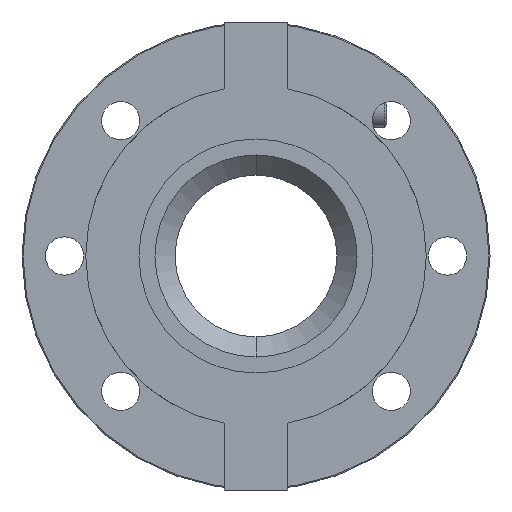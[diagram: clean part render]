
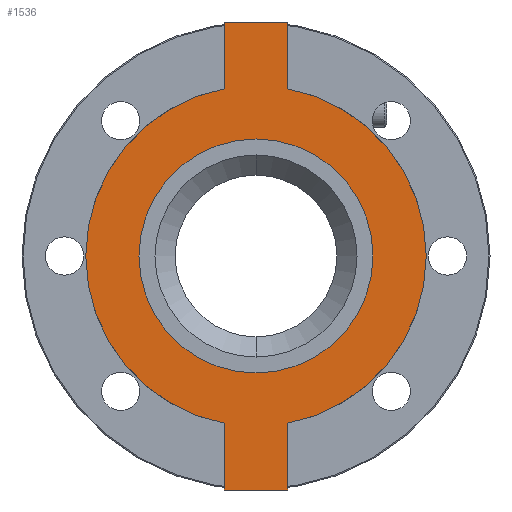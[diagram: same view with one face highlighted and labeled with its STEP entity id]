
A CAD part, front view. The second image highlights one B-rep face of the part: STEP entity #1536.
In plain terms, the highlighted planar face has unit normal (0, -1, 0).
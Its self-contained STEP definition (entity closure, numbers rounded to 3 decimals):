
#957 = VERTEX_POINT ( 'NONE', #8472 ) ;
#967 = VERTEX_POINT ( 'NONE', #8482 ) ;
#968 = VERTEX_POINT ( 'NONE', #8483 ) ;
#975 = VERTEX_POINT ( 'NONE', #8490 ) ;
#976 = VERTEX_POINT ( 'NONE', #8491 ) ;
#977 = VERTEX_POINT ( 'NONE', #8492 ) ;
#978 = VERTEX_POINT ( 'NONE', #8493 ) ;
#980 = VERTEX_POINT ( 'NONE', #8495 ) ;
#981 = VERTEX_POINT ( 'NONE', #8496 ) ;
#984 = VERTEX_POINT ( 'NONE', #8499 ) ;
#1536 = ADVANCED_FACE ( 'NONE', ( #16947, #16951 ), #17461, .F. ) ;
#2791 = EDGE_LOOP ( 'NONE', ( #4172, #4173, #4174, #4175, #4176, #4177, #4178, #4179 ) ) ;
#2813 = EDGE_LOOP ( 'NONE', ( #4180, #4181 ) ) ;
#3894 = EDGE_CURVE ( 'NONE', #967, #968, #18569, .T. ) ;
#3900 = EDGE_CURVE ( 'NONE', #957, #975, #18574, .T. ) ;
#3907 = EDGE_CURVE ( 'NONE', #977, #980, #18583, .T. ) ;
#3911 = EDGE_CURVE ( 'NONE', #981, #957, #18593, .T. ) ;
#3912 = EDGE_CURVE ( 'NONE', #978, #981, #18594, .T. ) ;
#3913 = EDGE_CURVE ( 'NONE', #980, #978, #18590, .T. ) ;
#3914 = EDGE_CURVE ( 'NONE', #976, #977, #18598, .T. ) ;
#3915 = EDGE_CURVE ( 'NONE', #984, #976, #18600, .T. ) ;
#3916 = EDGE_CURVE ( 'NONE', #975, #984, #18596, .T. ) ;
#3917 = EDGE_CURVE ( 'NONE', #968, #967, #18604, .T. ) ;
#4172 = ORIENTED_EDGE ( 'NONE', *, *, #3900, .F. ) ;
#4173 = ORIENTED_EDGE ( 'NONE', *, *, #3911, .F. ) ;
#4174 = ORIENTED_EDGE ( 'NONE', *, *, #3912, .F. ) ;
#4175 = ORIENTED_EDGE ( 'NONE', *, *, #3913, .F. ) ;
#4176 = ORIENTED_EDGE ( 'NONE', *, *, #3907, .F. ) ;
#4177 = ORIENTED_EDGE ( 'NONE', *, *, #3914, .F. ) ;
#4178 = ORIENTED_EDGE ( 'NONE', *, *, #3915, .F. ) ;
#4179 = ORIENTED_EDGE ( 'NONE', *, *, #3916, .F. ) ;
#4180 = ORIENTED_EDGE ( 'NONE', *, *, #3894, .T. ) ;
#4181 = ORIENTED_EDGE ( 'NONE', *, *, #3917, .T. ) ;
#8472 = CARTESIAN_POINT ( 'NONE',  ( 15., 20., 78.581 ) ) ;
#8482 = CARTESIAN_POINT ( 'NONE',  ( 0., 20., -55. ) ) ;
#8483 = CARTESIAN_POINT ( 'NONE',  ( 0., 20., 55. ) ) ;
#8490 = CARTESIAN_POINT ( 'NONE',  ( 15., 20., -78.581 ) ) ;
#8491 = CARTESIAN_POINT ( 'NONE',  ( -15., 20., -110. ) ) ;
#8492 = CARTESIAN_POINT ( 'NONE',  ( -15., 20., -78.581 ) ) ;
#8493 = CARTESIAN_POINT ( 'NONE',  ( -15., 20., 110. ) ) ;
#8495 = CARTESIAN_POINT ( 'NONE',  ( -15., 20., 78.581 ) ) ;
#8496 = CARTESIAN_POINT ( 'NONE',  ( 15., 20., 110. ) ) ;
#8499 = CARTESIAN_POINT ( 'NONE',  ( 15., 20., -110. ) ) ;
#16525 = AXIS2_PLACEMENT_3D ( 'NONE', #17468, #17469, #17470 ) ;
#16947 = FACE_OUTER_BOUND ( 'NONE', #2791, .T. ) ;
#16951 = FACE_BOUND ( 'NONE', #2813, .T. ) ;
#17461 = PLANE ( 'NONE',  #16525 ) ;
#17468 = CARTESIAN_POINT ( 'NONE',  ( 0., 20., 0. ) ) ;
#17469 = DIRECTION ( 'NONE',  ( 0., 1., 0. ) ) ;
#17470 = DIRECTION ( 'NONE',  ( 0., 0., 1. ) ) ;
#18569 = CIRCLE ( 'NONE', #19247, 55. ) ;
#18574 = CIRCLE ( 'NONE', #19250, 80. ) ;
#18583 = CIRCLE ( 'NONE', #19254, 80. ) ;
#18590 = LINE ( 'NONE', #20565, #18599 ) ;
#18593 = LINE ( 'NONE', #20559, #18595 ) ;
#18594 = LINE ( 'NONE', #20569, #18597 ) ;
#18595 = VECTOR ( 'NONE', #20560, 1000. ) ;
#18596 = LINE ( 'NONE', #20564, #18605 ) ;
#18597 = VECTOR ( 'NONE', #20571, 1000. ) ;
#18598 = LINE ( 'NONE', #20573, #18601 ) ;
#18599 = VECTOR ( 'NONE', #20572, 1000. ) ;
#18600 = LINE ( 'NONE', #20575, #18603 ) ;
#18601 = VECTOR ( 'NONE', #20574, 1000. ) ;
#18603 = VECTOR ( 'NONE', #20577, 1000. ) ;
#18604 = CIRCLE ( 'NONE', #19257, 55. ) ;
#18605 = VECTOR ( 'NONE', #20578, 1000. ) ;
#19247 = AXIS2_PLACEMENT_3D ( 'NONE', #20523, #20524, #20525 ) ;
#19250 = AXIS2_PLACEMENT_3D ( 'NONE', #20538, #20539, #20540 ) ;
#19254 = AXIS2_PLACEMENT_3D ( 'NONE', #20556, #20557, #20558 ) ;
#19257 = AXIS2_PLACEMENT_3D ( 'NONE', #20580, #20581, #20582 ) ;
#20523 = CARTESIAN_POINT ( 'NONE',  ( 0., 20., 0. ) ) ;
#20524 = DIRECTION ( 'NONE',  ( 0., 1., 0. ) ) ;
#20525 = DIRECTION ( 'NONE',  ( 0., 0., 1. ) ) ;
#20538 = CARTESIAN_POINT ( 'NONE',  ( 0., 20., 0. ) ) ;
#20539 = DIRECTION ( 'NONE',  ( 0., 1., 0. ) ) ;
#20540 = DIRECTION ( 'NONE',  ( 0., 0., 1. ) ) ;
#20556 = CARTESIAN_POINT ( 'NONE',  ( 0., 20., 0. ) ) ;
#20557 = DIRECTION ( 'NONE',  ( 0., 1., 0. ) ) ;
#20558 = DIRECTION ( 'NONE',  ( 0., 0., 1. ) ) ;
#20559 = CARTESIAN_POINT ( 'NONE',  ( 15., 20., 66.706 ) ) ;
#20560 = DIRECTION ( 'NONE',  ( 0., 0., -1. ) ) ;
#20564 = CARTESIAN_POINT ( 'NONE',  ( 15., 20., -68.52 ) ) ;
#20565 = CARTESIAN_POINT ( 'NONE',  ( -15., 20., 66.706 ) ) ;
#20569 = CARTESIAN_POINT ( 'NONE',  ( -15., 20., 110. ) ) ;
#20571 = DIRECTION ( 'NONE',  ( 1., 0., 0. ) ) ;
#20572 = DIRECTION ( 'NONE',  ( 0., 0., 1. ) ) ;
#20573 = CARTESIAN_POINT ( 'NONE',  ( -15., 20., -68.52 ) ) ;
#20574 = DIRECTION ( 'NONE',  ( 0., 0., 1. ) ) ;
#20575 = CARTESIAN_POINT ( 'NONE',  ( -15., 20., -110. ) ) ;
#20577 = DIRECTION ( 'NONE',  ( -1., 0., 0. ) ) ;
#20578 = DIRECTION ( 'NONE',  ( 0., 0., -1. ) ) ;
#20580 = CARTESIAN_POINT ( 'NONE',  ( 0., 20., 0. ) ) ;
#20581 = DIRECTION ( 'NONE',  ( 0., 1., 0. ) ) ;
#20582 = DIRECTION ( 'NONE',  ( 0., 0., 1. ) ) ;
